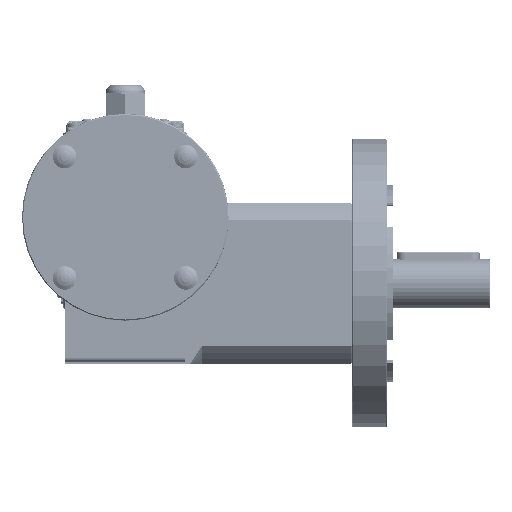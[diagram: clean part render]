
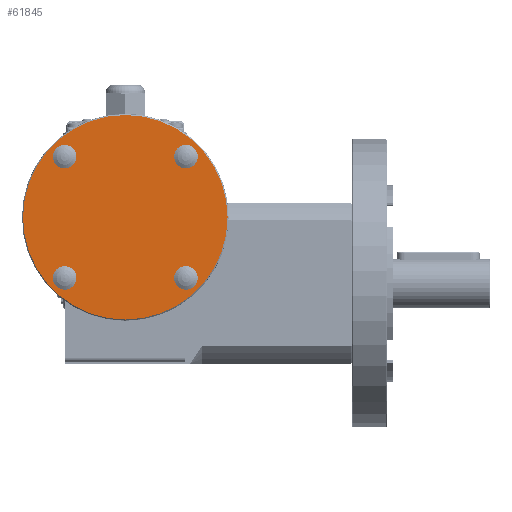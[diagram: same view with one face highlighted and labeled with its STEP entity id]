
A CAD part, left-side view. The second image highlights one B-rep face of the part: STEP entity #61845.
In plain terms, the highlighted planar face has unit normal (-1, 0, 0).
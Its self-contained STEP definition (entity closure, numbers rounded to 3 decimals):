
#59558=CARTESIAN_POINT('',(-59.0,32.704,32.704));
#59559=VERTEX_POINT('',#59558);
#59560=CARTESIAN_POINT('',(-59.,29.345,29.345));
#59561=DIRECTION('',(1.0,0.0,0.0));
#59562=DIRECTION('',(0.0,0.707,0.707));
#59563=AXIS2_PLACEMENT_3D('',#59560,#59561,#59562);
#59564=CIRCLE('',#59563,4.75);
#59565=EDGE_CURVE('',#59559,#59559,#59564,.T.);
#59618=CARTESIAN_POINT('',(-59.0,32.704,-32.704));
#59619=VERTEX_POINT('',#59618);
#59620=CARTESIAN_POINT('',(-59.,29.345,-29.345));
#59621=DIRECTION('',(1.0,0.0,0.0));
#59622=DIRECTION('',(0.0,0.707,-0.707));
#59623=AXIS2_PLACEMENT_3D('',#59620,#59621,#59622);
#59624=CIRCLE('',#59623,4.75);
#59625=EDGE_CURVE('',#59619,#59619,#59624,.T.);
#59678=CARTESIAN_POINT('',(-59.0,-32.704,-32.704));
#59679=VERTEX_POINT('',#59678);
#59680=CARTESIAN_POINT('',(-59.,-29.345,-29.345));
#59681=DIRECTION('',(1.0,0.0,0.0));
#59682=DIRECTION('',(0.0,-0.707,-0.707));
#59683=AXIS2_PLACEMENT_3D('',#59680,#59681,#59682);
#59684=CIRCLE('',#59683,4.75);
#59685=EDGE_CURVE('',#59679,#59679,#59684,.T.);
#59738=CARTESIAN_POINT('',(-59.0,-32.704,32.704));
#59739=VERTEX_POINT('',#59738);
#59740=CARTESIAN_POINT('',(-59.,-29.345,29.345));
#59741=DIRECTION('',(1.0,0.0,0.0));
#59742=DIRECTION('',(0.0,-0.707,0.707));
#59743=AXIS2_PLACEMENT_3D('',#59740,#59741,#59742);
#59744=CIRCLE('',#59743,4.75);
#59745=EDGE_CURVE('',#59739,#59739,#59744,.T.);
#61810=CARTESIAN_POINT('',(-59.0,0.,49.5));
#61811=VERTEX_POINT('',#61810);
#61812=CARTESIAN_POINT('',(-59.0,0.,0.));
#61813=DIRECTION('',(1.0,0.0,0.0));
#61814=DIRECTION('',(0.0,0.0,-1.0));
#61815=AXIS2_PLACEMENT_3D('',#61812,#61813,#61814);
#61816=CIRCLE('',#61815,49.5);
#61817=EDGE_CURVE('',#61811,#61811,#61816,.T.);
#61825=CARTESIAN_POINT('',(-59.0,0.,0.));
#61826=DIRECTION('',(1.0,0.0,0.0));
#61827=DIRECTION('',(0.0,0.0,-1.0));
#61828=AXIS2_PLACEMENT_3D('',#61825,#61826,#61827);
#61829=PLANE('',#61828);
#61830=ORIENTED_EDGE('',*,*,#61817,.F.);
#61831=EDGE_LOOP('',(#61830));
#61832=FACE_OUTER_BOUND('',#61831,.T.);
#61833=ORIENTED_EDGE('',*,*,#59565,.T.);
#61834=EDGE_LOOP('',(#61833));
#61835=FACE_BOUND('',#61834,.T.);
#61836=ORIENTED_EDGE('',*,*,#59625,.T.);
#61837=EDGE_LOOP('',(#61836));
#61838=FACE_BOUND('',#61837,.T.);
#61839=ORIENTED_EDGE('',*,*,#59685,.T.);
#61840=EDGE_LOOP('',(#61839));
#61841=FACE_BOUND('',#61840,.T.);
#61842=ORIENTED_EDGE('',*,*,#59745,.T.);
#61843=EDGE_LOOP('',(#61842));
#61844=FACE_BOUND('',#61843,.T.);
#61845=ADVANCED_FACE('',(#61832,#61835,#61838,#61841,#61844),#61829,.F.);
